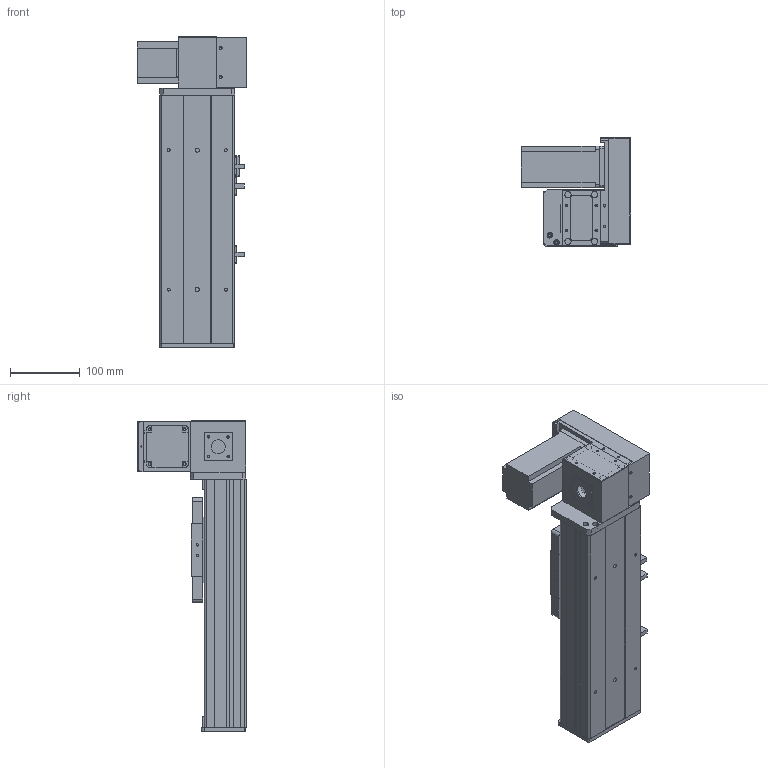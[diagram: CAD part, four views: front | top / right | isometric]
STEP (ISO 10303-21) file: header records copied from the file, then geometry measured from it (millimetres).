
FILE_DESCRIPTION (( 'STEP AP203' ), '1' );
FILE_NAME ('Y10CB-D90-S100-UR-P400W.STEP', '2020-02-16T02:53:54', ( '微软用户' ), ( '微软中国' ), 'SwSTEP 2.0', 'SolidWorks 2017', '' );
FILE_SCHEMA (( 'CONFIG_CONTROL_DESIGN' ));
Length unit declared in the file: millimetre
Products named in the file (18): Y10CB-D90-S100-UR-P400W; Y10C---詩湍揤啣; 0Cb-俋欶---; 10CB9-掛极; Y10B-々湍喘謫眊楊擘啣--; 10CB-耜裔; 0B-萇儂楊擘啣; Y135C-陔俋离換覜結え-; san松下电机400不带刹车----; Y100-135俋离換覜ん--; 0B-源倛裔啣; Y10B--々湍喘謫眊--666; 0B-埴倛裔啣; Y10B-耜蚾蟀諉啣----; 10CB-詩湍-; 00B-俋欶BM--; Y10CB- 掛极耜裔啣-毀---; 0CB-雄赽釱---
Assembly tree (21 placements, depth 2):
  Y10CB-D90-S100-UR-P400W
    0CB-雄赽釱---
    0Cb-俋欶---
    Y10B-々湍喘謫眊楊擘啣--
    0B-萇儂楊擘啣
    san松下电机400不带刹车----
    0B-源倛裔啣
    0B-埴倛裔啣
    10CB-詩湍-
    Y10CB- 掛极耜裔啣-毀---  x2
    Y10C---詩湍揤啣  x2
    10CB9-掛极
    10CB-耜裔
    Y135C-陔俋离換覜結え-
    Y100-135俋离換覜ん--  x3
    Y10B--々湍喘謫眊--666
    Y10B-耜蚾蟀諉啣----
    00B-俋欶BM--
Bounding box: 157 x 155.5 x 446 mm (x, y, z)
Volume: 1565588.1 mm3; surface area: 619104.8 mm2
Topology: 21 solids, 21 shells, 930 faces, 2443 edges, 1610 vertices
Faces by surface type: plane 467, cylinder 439, cone 24
Entity records: 28412 total; most frequent: CARTESIAN_POINT 4729, DIRECTION 4658, ORIENTED_EDGE 4356, EDGE_CURVE 2178, AXIS2_PLACEMENT_3D 1669, VERTEX_POINT 1436, VECTOR 1320, LINE 1320
